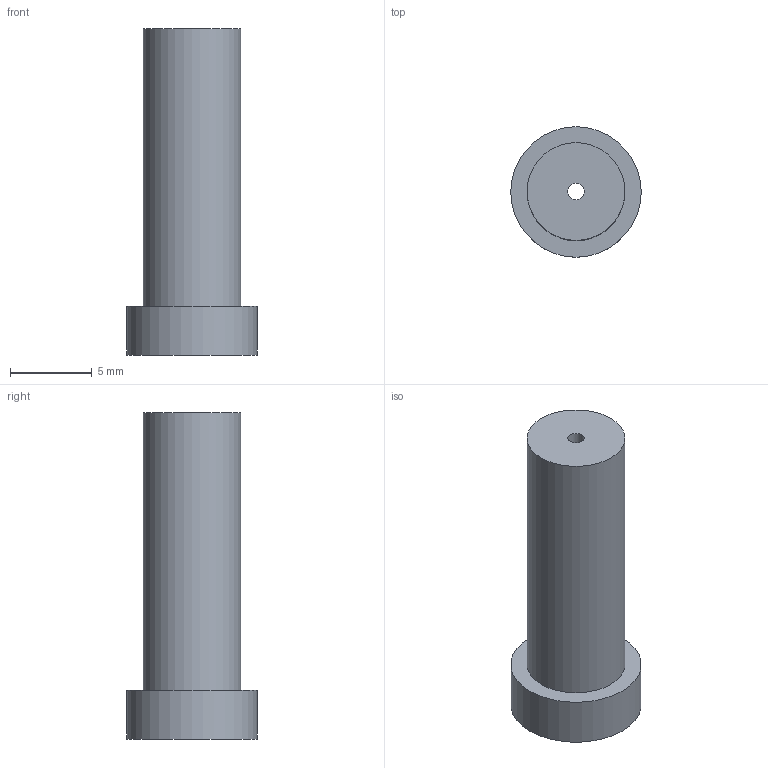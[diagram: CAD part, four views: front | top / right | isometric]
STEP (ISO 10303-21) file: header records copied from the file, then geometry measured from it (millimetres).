
FILE_DESCRIPTION(('Open CASCADE Model'),'2;1');
FILE_NAME('Open CASCADE Shape Model','2026-10-28T05:14:49',('Author'),( 'Open CASCADE'),'Open CASCADE STEP processor 7.8','Open CASCADE 7.8' ,'Unknown');
FILE_SCHEMA(('AUTOMOTIVE_DESIGN { 1 0 10303 214 1 1 1 1 }'));
Length unit declared in the file: millimetre
Products named in the file (1): Open CASCADE STEP translator 7.8 5
Bounding box: 8 x 8 x 20 mm (x, y, z)
Volume: 574.5 mm3; surface area: 605.5 mm2
Topology: 1 solids, 1 shells, 8 faces, 13 edges, 8 vertices
Faces by surface type: cylinder 4, plane 3, cone 1
Full cylindrical faces by diameter (mm): 1 x1, 2.5 x1, 6 x1, 8 x1
Entity records: 375 total; most frequent: DIRECTION 64, CARTESIAN_POINT 62, ORIENTED_EDGE 26, PCURVE 26, DEFINITIONAL_REPRESENTATION 26, LINE 25, VECTOR 25, AXIS2_PLACEMENT_3D 17
